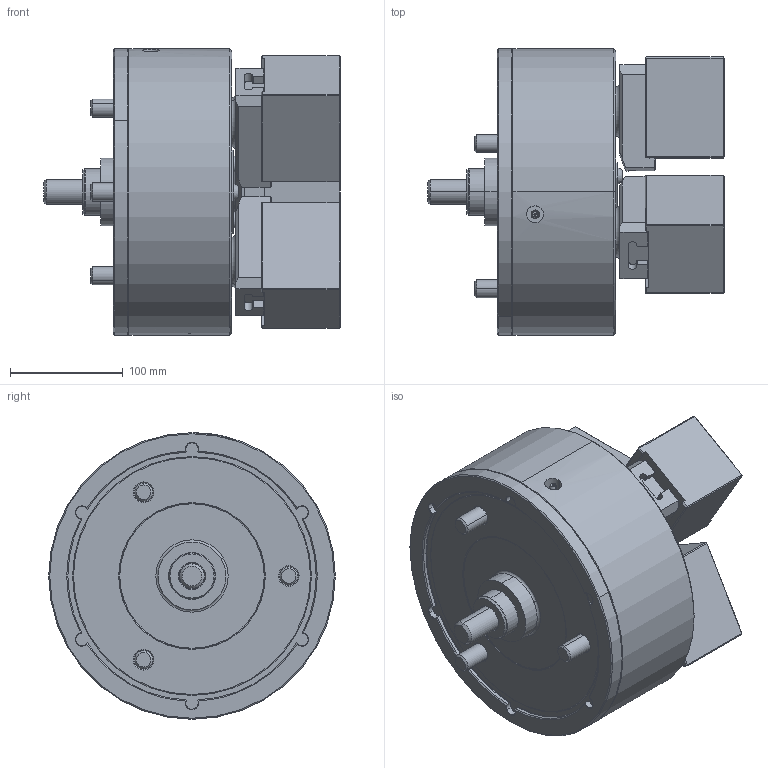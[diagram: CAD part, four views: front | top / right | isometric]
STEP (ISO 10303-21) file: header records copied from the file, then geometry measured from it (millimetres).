
FILE_DESCRIPTION (( 'STEP AP214' ), '1' );
FILE_NAME ('PW-10_CL_ID.STEP', '2025-08-18T06:50:15', ( '' ), ( '' ), 'SwSTEP 2.0', 'SolidWorks 2022', '' );
FILE_SCHEMA (( 'AUTOMOTIVE_DESIGN' ));
Length unit declared in the file: millimetre
Products named in the file (6): 0030116025; 結合_ID; 0030116105; 61P420193; 61P322899; PW-10_CL_ID
Assembly tree (16 placements, depth 2):
  PW-10_CL_ID
    61P322899  x3
    61P420193  x3
    0030116105  x3
    0030116025  x6
    結合_ID
Bounding box: 262.8 x 254 x 254 mm (x, y, z)
Volume: 6682192 mm3; surface area: 496989.2 mm2
Topology: 16 solids, 19 shells, 1539 faces, 3894 edges, 2497 vertices
Faces by surface type: plane 754, cone 307, cylinder 245, bspline 189, torus 42, sphere 2
Entity records: 47374 total; most frequent: CARTESIAN_POINT 17835, ORIENTED_EDGE 6464, DIRECTION 5317, EDGE_CURVE 3232, VERTEX_POINT 2084, AXIS2_PLACEMENT_3D 1775, VECTOR 1767, LINE 1767
